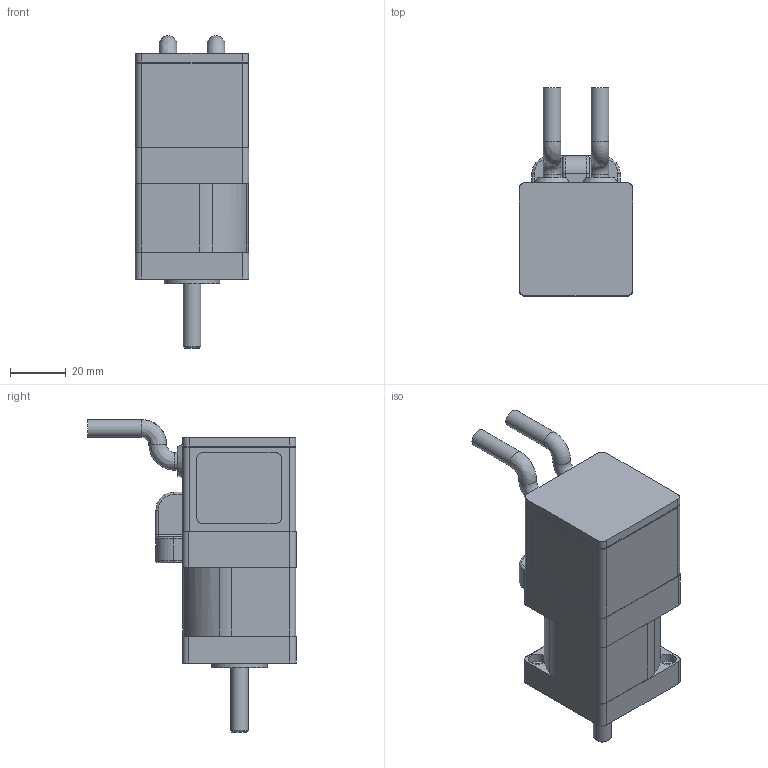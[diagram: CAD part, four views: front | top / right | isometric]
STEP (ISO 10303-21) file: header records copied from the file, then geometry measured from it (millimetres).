
FILE_DESCRIPTION((''),'2;1');
FILE_NAME('C:\CAD_work\Dummy_Modeling_Project_02-12-05\3D MODELS\BE162_CBL.stp','2005-12-20T15:04:26',('jevans'),(''),'Autodesk Inventor 10','Autodesk Inventor 10','');
FILE_SCHEMA(('AUTOMOTIVE_DESIGN { 1 0 10303 214 1 1 1 1 }'));
Length unit declared in the file: inch
Products named in the file (1): BE16_CBL
Bounding box: 40.89 x 74.9 x 112.37 mm (x, y, z)
Volume: 137630.6 mm3; surface area: 21126.6 mm2
Topology: 1 solids, 1 shells, 168 faces, 402 edges, 247 vertices
Faces by surface type: cylinder 72, plane 65, bspline 18, torus 12, cone 1
Full cylindrical faces by diameter (mm): 1.7 x2, 6.35 x3, 8.992 x1, 11.176 x1, 15.697 x1, 17 x1, 17.018 x2, 18.009 x1, 20.015 x1
Entity records: 5054 total; most frequent: CARTESIAN_POINT 1210, DIRECTION 847, ORIENTED_EDGE 728, EDGE_CURVE 364, AXIS2_PLACEMENT_3D 332, VERTEX_POINT 239, EDGE_LOOP 217, VECTOR 183
